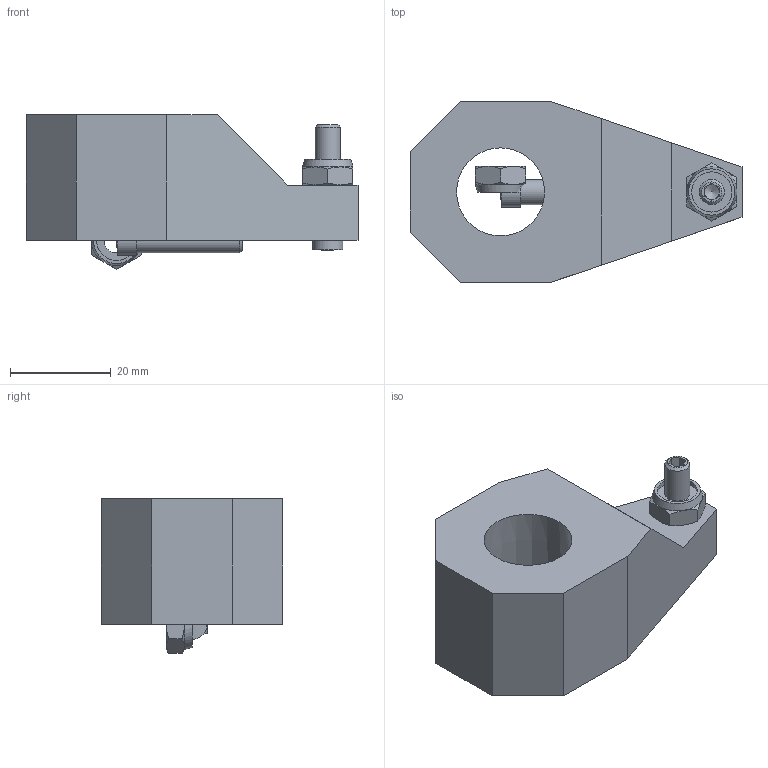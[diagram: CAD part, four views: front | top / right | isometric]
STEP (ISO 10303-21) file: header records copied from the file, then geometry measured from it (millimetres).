
FILE_DESCRIPTION( ( '' ), '1' );
FILE_NAME( 'W:/Catalogue/JF6H/JF6H35_ClampArm/JF6H35_ClampArm.stp', '2008-05-26T00:57:58', ( '機械事業部産業機器グループ' ), ( '豊和工業株式会社' ), 'XStep 1.0', ' ', ' ' );
FILE_SCHEMA( ( 'CONFIG_CONTROL_DESIGN' ) );
Length unit declared in the file: millimetre
Products named in the file (4): Assem1; 1; 2; 3
Bounding box: 66 x 36 x 30.77 mm (x, y, z)
Volume: 66057.6 mm3; surface area: 18291.4 mm2
Topology: 6 solids, 6 shells, 120 faces, 274 edges, 170 vertices
Faces by surface type: plane 72, cone 32, cylinder 14, sphere 2
Full cylindrical faces by diameter (mm): 3 x2, 5 x6, 6 x2, 6.5 x2, 8 x2
Entity records: 1822 total; most frequent: CARTESIAN_POINT 383, DIRECTION 258, ORIENTED_EDGE 238, EDGE_CURVE 119, AXIS2_PLACEMENT_3D 99, EDGE_LOOP 80, VERTEX_POINT 80, FACE_OUTER_BOUND 67
